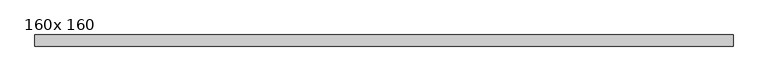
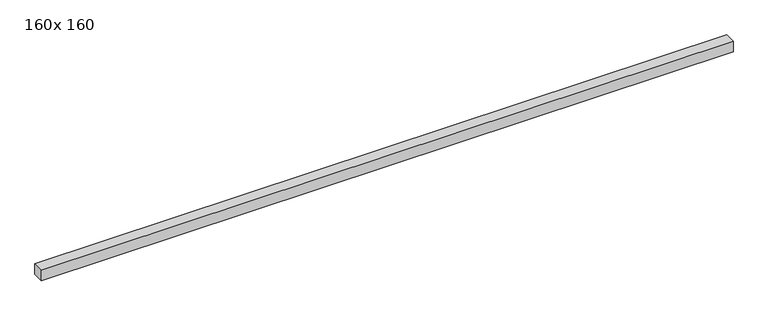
"""IFC4 building model written with IfcOpenShell, lengths in millimetres: beam geometry, Belka drewniana : 160x 160."""

import ifcopenshell
import ifcopenshell.guid

model = None  # the IFC model being written
_history = None  # IfcOwnerHistory: only IFC2X3 demands one
_inside = {}  # id of a spatial element -> (the spatial element, [elements in it])
_under = {}  # id of a project, library or spatial element -> (it, [spatial elements below it])
_declared = {}  # id of a project -> (the project, [libraries it declares])
_typed = {}  # id of a type object -> (the type object, [elements of that type])
_made_of = {}  # id of a material, layer set ... -> (it, [elements and type objects made of it])


def new_model(schema):
    """Start an empty IFC model of exactly this schema.

    Asked for "IFC4X3", IfcOpenShell would pick the latest addendum, in which some entities
    have other attributes; the version numbers below select the first issue.
    IFC2X3 requires an IfcOwnerHistory on every rooted entity: one is made here for all.
    """
    global model, _history
    if schema == "IFC4X3":
        model = ifcopenshell.file(schema_version=(4, 3, 0, 0))
    else:
        model = ifcopenshell.file(schema=schema)
    _inside.clear()
    _under.clear()
    _declared.clear()
    _typed.clear()
    _made_of.clear()
    _history = None
    if model.schema == "IFC2X3":
        org = make("IfcOrganization", Name="unknown")
        user = make(
            "IfcPersonAndOrganization",
            ThePerson=make("IfcPerson", FamilyName="unknown"),
            TheOrganization=org,
        )
        app = make(
            "IfcApplication",
            ApplicationDeveloper=org,
            Version="unknown",
            ApplicationFullName="unknown",
            ApplicationIdentifier="unknown",
        )
        _history = make(
            "IfcOwnerHistory",
            OwningUser=user,
            OwningApplication=app,
            ChangeAction="ADDED",
            CreationDate=0,
        )
    return model


def make(cls, **values):
    """One entity of the class cls with the attributes given. An attribute that is None is left unset."""
    return model.create_entity(
        cls, **{name: value for name, value in values.items() if value is not None}
    )


def rooted(cls, **values):
    """An entity with a GlobalId (a new one), such as an element, a storey or a relation."""
    return make(cls, GlobalId=ifcopenshell.guid.new(), OwnerHistory=_history, **values)


def si_unit(unit_type, name, prefix=None):
    """IfcSIUnit, for example si_unit("LENGTHUNIT", "METRE", prefix="MILLI")."""
    return make("IfcSIUnit", UnitType=unit_type, Prefix=prefix, Name=name)


def assignment(units):
    """IfcUnitAssignment: the units of a project."""
    return None if units is None else make("IfcUnitAssignment", Units=units)


def point(xyz):
    """IfcCartesianPoint."""
    return None if xyz is None else make("IfcCartesianPoint", Coordinates=xyz)


def direction(xyz):
    """IfcDirection."""
    return None if xyz is None else make("IfcDirection", DirectionRatios=xyz)


def frame(location, z_axis=None, x_axis=None):
    """IfcAxis2Placement3D, a coordinate frame: its origin and axes. An axis left out is left unset."""
    return make(
        "IfcAxis2Placement3D",
        Location=point(location),
        Axis=direction(z_axis),
        RefDirection=direction(x_axis),
    )


def origin():
    """The frame at (0, 0, 0) with its axes left unset."""
    return frame((0.0, 0.0, 0.0))


def place(relative_to, where):
    """IfcLocalPlacement: puts the frame where relative to a parent placement (None: the world)."""
    return make(
        "IfcLocalPlacement", PlacementRelTo=relative_to, RelativePlacement=where
    )


def context(
    kind, dimensions, precision=None, world=None, true_north=None, identifier=None
):
    """IfcGeometricRepresentationContext, for example the 3D "Model" context."""
    return make(
        "IfcGeometricRepresentationContext",
        ContextIdentifier=identifier,
        ContextType=kind,
        CoordinateSpaceDimension=dimensions,
        Precision=precision,
        WorldCoordinateSystem=world,
        TrueNorth=true_north,
    )


def project(units=None, contexts=None):
    """IfcProject with its units and contexts."""
    return rooted(
        "IfcProject",
        Name="project",
        RepresentationContexts=contexts,
        UnitsInContext=assignment(units),
    )


def spatial(cls, under=None, at=None, **own):
    """A site, building, storey or space (cls), placed at a placement, below another one or the project."""
    s = rooted(cls, ObjectPlacement=at, **own)
    if under is not None:
        _under.setdefault(under.id(), (under, []))[1].append(s)
    return s


def polyline(points):
    """IfcPolyline through the points."""
    return make("IfcPolyline", Points=[point(p) for p in points])


def outline(outer, holes=None, kind="AREA"):
    """IfcArbitraryClosedProfileDef: a profile drawn as a closed curve; with holes, ...WithVoids."""
    if holes is None:
        return make("IfcArbitraryClosedProfileDef", ProfileType=kind, OuterCurve=outer)
    return make(
        "IfcArbitraryProfileDefWithVoids",
        ProfileType=kind,
        OuterCurve=outer,
        InnerCurves=holes,
    )


def extrude(swept, where, along, depth):
    """IfcExtrudedAreaSolid: the profile swept, set in the frame where, extruded along a direction by depth."""
    return make(
        "IfcExtrudedAreaSolid",
        SweptArea=swept,
        Position=where,
        ExtrudedDirection=direction(along),
        Depth=depth,
    )


def shape(context_of_items, identifier, shape_type, items):
    """IfcShapeRepresentation: the items that make up one representation, for example the "Body"."""
    return make(
        "IfcShapeRepresentation",
        ContextOfItems=context_of_items,
        RepresentationIdentifier=identifier,
        RepresentationType=shape_type,
        Items=items,
    )


def source(mapping_origin, context_of_items, identifier, shape_type, items):
    """IfcRepresentationMap: a shape defined once, which mapped items show again and again."""
    return make(
        "IfcRepresentationMap",
        MappingOrigin=mapping_origin,
        MappedRepresentation=shape(context_of_items, identifier, shape_type, items),
    )


def transform(
    local_origin,
    x_axis=None,
    y_axis=None,
    z_axis=None,
    scale=None,
    scale2=None,
    scale3=None,
    uniform=True,
):
    """IfcCartesianTransformationOperator3D, or its non-uniform kind. x_axis, y_axis, z_axis: its Axis1, 2, 3."""
    if uniform:
        return make(
            "IfcCartesianTransformationOperator3D",
            Axis1=direction(x_axis),
            Axis2=direction(y_axis),
            LocalOrigin=point(local_origin),
            Scale=scale,
            Axis3=direction(z_axis),
        )
    return make(
        "IfcCartesianTransformationOperator3DnonUniform",
        Axis1=direction(x_axis),
        Axis2=direction(y_axis),
        LocalOrigin=point(local_origin),
        Scale=scale,
        Axis3=direction(z_axis),
        Scale2=scale2,
        Scale3=scale3,
    )


def mapped(mapping_source, mapping_target):
    """IfcMappedItem: shows the shape of a source again, moved by a transform."""
    return make(
        "IfcMappedItem", MappingSource=mapping_source, MappingTarget=mapping_target
    )


def made_of(thing, what):
    """Note that an element or type object is made of a material, layer set ...; save() writes the relation."""
    if what is not None:
        _made_of.setdefault(what.id(), (what, []))[1].append(thing)
    return thing


def element(
    cls,
    number,
    at=None,
    inside=None,
    cuts=None,
    type_object=None,
    material=None,
    context=None,
    identifier="Body",
    shape_type=None,
    held_by="IfcProductDefinitionShape",
    body=None,
    shapes=None,
    **own,
):
    """One element of the class cls, such as IfcWall. Its Tag is "e" and its number.

    at: its placement. inside: the storey or other place that contains it. cuts: it is an
    opening in that element (IfcRelVoidsElement). A single representation is given by context,
    identifier, shape_type and body (its items); several are given by shapes. held_by: the class
    of the entity that holds the representations. save() writes the other relations.
    """
    e = rooted(cls, Tag="e%d" % number, ObjectPlacement=at, **own)
    if body is not None:
        shapes = [shape(context, identifier, shape_type, body)]
    if shapes is not None:
        e.Representation = make(held_by, Representations=shapes)
    if inside is not None:
        _inside.setdefault(inside.id(), (inside, []))[1].append(e)
    if cuts is not None:
        rooted(
            "IfcRelVoidsElement", RelatingBuildingElement=cuts, RelatedOpeningElement=e
        )
    if type_object is not None:
        _typed.setdefault(type_object.id(), (type_object, []))[1].append(e)
    return made_of(e, material)


def aggregate(whole, parts):
    """IfcRelAggregates: a whole, such as a stair, and the parts it consists of."""
    return rooted("IfcRelAggregates", RelatingObject=whole, RelatedObjects=parts)


def save(model, path):
    """Write the relations noted so far, then the file.

    IfcRelAggregates (storeys below a building ...), IfcRelContainedInSpatialStructure (elements
    in a storey), IfcRelDefinesByType, IfcRelAssociatesMaterial and IfcRelDeclares: one each for
    every whole, place, type object, material and project.
    """
    for whole, parts in _under.values():
        aggregate(whole, parts)
    for where, things in _inside.values():
        rooted(
            "IfcRelContainedInSpatialStructure",
            RelatedElements=things,
            RelatingStructure=where,
        )
    for kind, things in _typed.values():
        rooted("IfcRelDefinesByType", RelatedObjects=things, RelatingType=kind)
    for what, things in _made_of.values():
        rooted("IfcRelAssociatesMaterial", RelatedObjects=things, RelatingMaterial=what)
    for by, libraries in _declared.values():
        rooted("IfcRelDeclares", RelatingContext=by, RelatedDefinitions=libraries)
    model.write(path)


def beam_160x_160_39475e01(model_context):
    return source(origin(), model_context, "Body", "SweptSolid", [
        extrude(outline(polyline([(5000.0, 80.0), (5000.0, -80.0), (-5000.0, -80.0), (-5000.0, 80.0), (5000.0, 80.0)])), frame((0.0, 0.0, -80.0), z_axis=(0.0, 0.0, 1.0), x_axis=(1.0, 0.0, 0.0)), (0.0, 0.0, 1.0), 160.0),
    ])


if __name__ == "__main__":
    model = new_model("IFC4")
    model_context = context("Model", 3, world=origin())
    ifc_project = project(units=[si_unit("LENGTHUNIT", "METRE", prefix="MILLI")], contexts=[model_context])
    site = spatial("IfcSite", under=ifc_project)
    building = spatial("IfcBuilding", under=site)
    placement = place(None, origin())
    beam_160x_160_shape = beam_160x_160_39475e01(model_context)
    element("IfcBeam", 1, ObjectType="Belka drewniana : 160x 160", at=placement, inside=building, context=model_context, shape_type="MappedRepresentation", body=[
        mapped(beam_160x_160_shape, transform((0.0, 0.0, 0.0), x_axis=(1.0, 0.0, 0.0), y_axis=(0.0, 1.0, 0.0), z_axis=(0.0, 0.0, 1.0))),
    ])
    save(model, "model.ifc")
